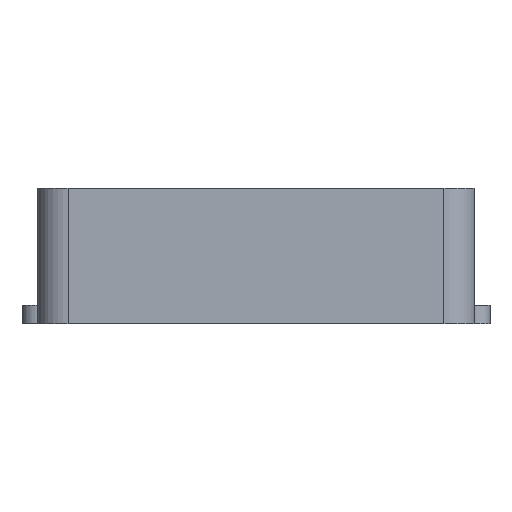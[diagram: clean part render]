
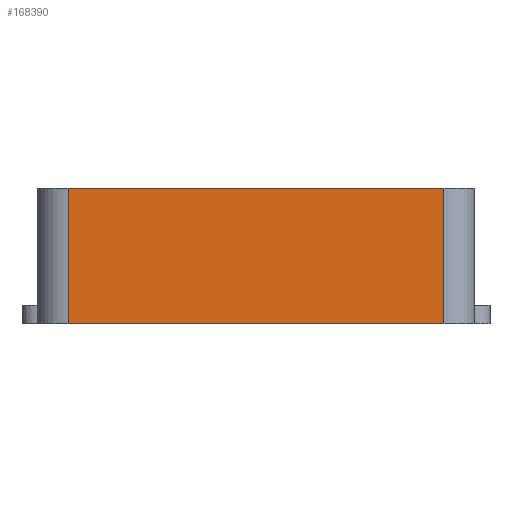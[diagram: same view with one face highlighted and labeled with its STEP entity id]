
A CAD part, left-side view. The second image highlights one B-rep face of the part: STEP entity #168390.
In plain terms, the highlighted planar face has unit normal (-1, 0, 0).
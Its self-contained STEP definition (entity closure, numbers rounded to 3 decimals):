
#46470=CARTESIAN_POINT('',(1.549,-5.042,0.));
#46480=VERTEX_POINT('',#46470);
#46510=CARTESIAN_POINT('',(1.549,-5.042,0.));
#46520=DIRECTION('',(0.,0.,1.));
#46530=VECTOR('',#46520,1.);
#46540=LINE('',#46510,#46530);
#46550=CARTESIAN_POINT('',(1.549,-5.042,0.88));
#46560=VERTEX_POINT('',#46550);
#46570=EDGE_CURVE('',#46480,#46560,#46540,.T.);
#111690=CARTESIAN_POINT('',(1.549,-7.635,0.88));
#111700=DIRECTION('',(0.,1.,0.));
#111710=VECTOR('',#111700,1.);
#111720=LINE('',#111690,#111710);
#111730=CARTESIAN_POINT('',(1.549,-2.592,0.88));
#111740=VERTEX_POINT('',#111730);
#111750=EDGE_CURVE('',#46560,#111740,#111720,.T.);
#155440=CARTESIAN_POINT('',(1.549,-2.592,0.));
#155450=VERTEX_POINT('',#155440);
#155480=CARTESIAN_POINT('',(1.549,-3.007,0.));
#155490=DIRECTION('',(0.,-1.,0.));
#155500=VECTOR('',#155490,1.);
#155510=LINE('',#155480,#155500);
#155520=EDGE_CURVE('',#155450,#46480,#155510,.T.);
#168180=CARTESIAN_POINT('',(1.549,-2.592,0.88));
#168190=DIRECTION('',(0.,0.,-1.));
#168200=VECTOR('',#168190,1.);
#168210=LINE('',#168180,#168200);
#168220=EDGE_CURVE('',#111740,#155450,#168210,.T.);
#168280=CARTESIAN_POINT('',(1.549,-2.807,0.));
#168290=DIRECTION('',(-1.,0.,0.));
#168300=DIRECTION('',(0.,1.,0.));
#168310=AXIS2_PLACEMENT_3D('',#168280,#168290,#168300);
#168320=PLANE('',#168310);
#168330=ORIENTED_EDGE('',*,*,#168220,.T.);
#168340=ORIENTED_EDGE('',*,*,#111750,.T.);
#168350=ORIENTED_EDGE('',*,*,#46570,.T.);
#168360=ORIENTED_EDGE('',*,*,#155520,.T.);
#168370=EDGE_LOOP('',(#168360,#168350,#168340,#168330));
#168380=FACE_OUTER_BOUND('',#168370,.T.);
#168390=ADVANCED_FACE('',(#168380),#168320,.T.);
